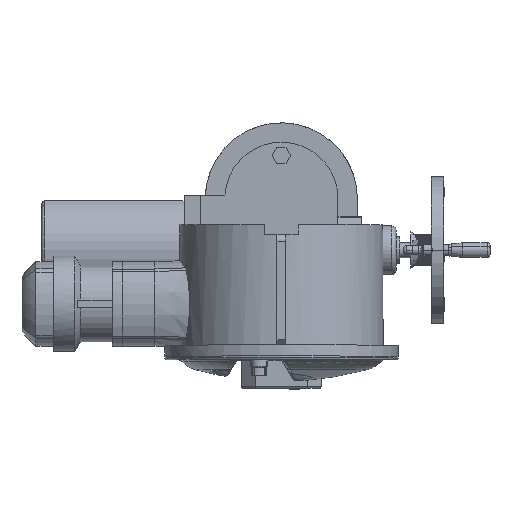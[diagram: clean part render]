
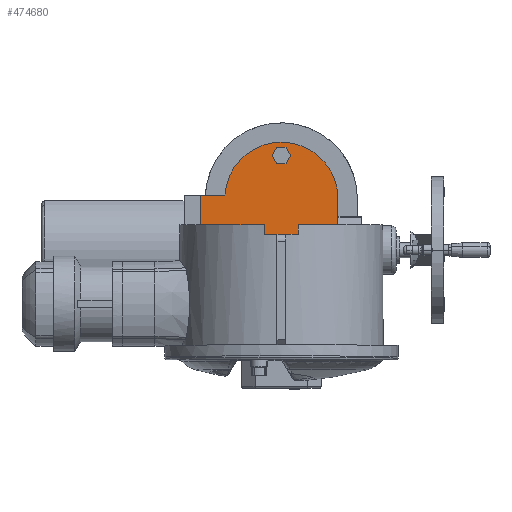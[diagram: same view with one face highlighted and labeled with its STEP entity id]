
A CAD part, top view. The second image highlights one B-rep face of the part: STEP entity #474680.
In plain terms, the highlighted planar face has unit normal (0, 0, 1).
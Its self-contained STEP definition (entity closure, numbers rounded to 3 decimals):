
#459160=CARTESIAN_POINT('',(0.,36.,137.5));
#459170=DIRECTION('',(-1.,0.,0.));
#459180=VECTOR('',#459170,1.);
#459190=LINE('',#459160,#459180);
#459200=CARTESIAN_POINT('',(-76.837,36.,137.5));
#459210=VERTEX_POINT('',#459200);
#459220=CARTESIAN_POINT('',(-110.5,36.,137.5));
#459230=VERTEX_POINT('',#459220);
#459240=EDGE_CURVE('',#459210,#459230,#459190,.T.);
#460250=CARTESIAN_POINT('',(-110.5,-114.,137.5));
#460260=VERTEX_POINT('',#460250);
#460290=CARTESIAN_POINT('',(0.,-114.,137.5));
#460300=DIRECTION('',(-1.,0.,0.));
#460310=VECTOR('',#460300,1.);
#460320=LINE('',#460290,#460310);
#460330=CARTESIAN_POINT('',(-61.,-114.,137.5));
#460340=VERTEX_POINT('',#460330);
#460350=EDGE_CURVE('',#460340,#460260,#460320,.T.);
#460850=CARTESIAN_POINT('',(-110.5,-72.604,137.5));
#460860=DIRECTION('',(0.,1.,0.));
#460870=VECTOR('',#460860,1.);
#460880=LINE('',#460850,#460870);
#460890=EDGE_CURVE('',#460260,#459230,#460880,.T.);
#468230=CARTESIAN_POINT('',(12.702,89.813,137.5));
#468240=VERTEX_POINT('',#468230);
#468270=CARTESIAN_POINT('',(-81.07,-72.604,137.5));
#468280=DIRECTION('',(0.5,0.866,0.));
#468290=VECTOR('',#468280,1.);
#468300=LINE('',#468270,#468290);
#468310=CARTESIAN_POINT('',(6.351,78.813,137.5));
#468320=VERTEX_POINT('',#468310);
#468330=EDGE_CURVE('',#468320,#468240,#468300,.T.);
#468980=CARTESIAN_POINT('',(0.,78.813,137.5)
);
#468990=DIRECTION('',(1.,0.,0.));
#469000=VECTOR('',#468990,1.);
#469010=LINE('',#468980,#469000);
#469020=CARTESIAN_POINT('',(-6.351,78.813,137.5));
#469030=VERTEX_POINT('',#469020);
#469040=EDGE_CURVE('',#469030,#468320,#469010,.T.);
#469220=CARTESIAN_POINT('',(81.07,-72.604,137.5));
#469230=DIRECTION('',(0.5,-0.866,0.));
#469240=VECTOR('',#469230,1.);
#469250=LINE('',#469220,#469240);
#469260=CARTESIAN_POINT('',(-12.702,89.813,137.5));
#469270=VERTEX_POINT('',#469260);
#469280=EDGE_CURVE('',#469270,#469030,#469250,.T.);
#469460=CARTESIAN_POINT('',(-106.473,-72.604,137.5));
#469470=DIRECTION('',(-0.5,-0.866,0.));
#469480=VECTOR('',#469470,1.);
#469490=LINE('',#469460,#469480);
#469500=CARTESIAN_POINT('',(-6.351,100.813,137.5));
#469510=VERTEX_POINT('',#469500);
#469520=EDGE_CURVE('',#469510,#469270,#469490,.T.);
#469700=CARTESIAN_POINT('',(0.,100.813,137.5)
);
#469710=DIRECTION('',(-1.,0.,-0.));
#469720=VECTOR('',#469710,1.);
#469730=LINE('',#469700,#469720);
#469740=CARTESIAN_POINT('',(6.351,100.813,137.5));
#469750=VERTEX_POINT('',#469740);
#469760=EDGE_CURVE('',#469750,#469510,#469730,.T.);
#469940=CARTESIAN_POINT('',(106.473,-72.604,137.5));
#469950=DIRECTION('',(-0.5,0.866,-0.));
#469960=VECTOR('',#469950,1.);
#469970=LINE('',#469940,#469960);
#469980=EDGE_CURVE('',#468240,#469750,#469970,.T.);
#470340=CARTESIAN_POINT('',(0.,-140.,137.5
));
#470350=VERTEX_POINT('',#470340);
#470380=CARTESIAN_POINT('',(0.,-85.,137.5
));
#470390=DIRECTION('',(0.,0.,1.));
#470400=DIRECTION('',(0.,-1.,0.));
#470410=AXIS2_PLACEMENT_3D('',#470380,#470390,#470400);
#470420=CIRCLE('',#470410,55.);
#470430=CARTESIAN_POINT('',(0.,-30.,137.5
));
#470440=VERTEX_POINT('',#470430);
#470450=EDGE_CURVE('',#470440,#470350,#470420,.T.);
#470640=EDGE_CURVE('',#470350,#470440,#470420,.T.);
#471290=CARTESIAN_POINT('',(77.,31.,137.5));
#471300=VERTEX_POINT('',#471290);
#471330=CARTESIAN_POINT('',(0.,31.,137.5));
#471340=DIRECTION('',(0.,0.,-1.));
#471350=DIRECTION('',(1.,0.,0.));
#471360=AXIS2_PLACEMENT_3D('',#471330,#471340,#471350);
#471370=CIRCLE('',#471360,77.);
#471380=EDGE_CURVE('',#459210,#471300,#471370,.T.);
#472490=CARTESIAN_POINT('',(77.,-74.,137.5));
#472500=VERTEX_POINT('',#472490);
#472530=CARTESIAN_POINT('',(77.,31.,137.5));
#472540=DIRECTION('',(0.,-1.,0.));
#472550=VECTOR('',#472540,1.);
#472560=LINE('',#472530,#472550);
#472570=EDGE_CURVE('',#471300,#472500,#472560,.T.);
#472800=CARTESIAN_POINT('',(61.,-74.,137.5));
#472810=VERTEX_POINT('',#472800);
#472840=CARTESIAN_POINT('',(0.,-74.,137.5));
#472850=DIRECTION('',(1.,0.,0.));
#472860=VECTOR('',#472850,1.);
#472870=LINE('',#472840,#472860);
#472880=EDGE_CURVE('',#472810,#472500,#472870,.T.);
#474110=CARTESIAN_POINT('',(-61.,-72.604,137.5));
#474120=DIRECTION('',(0.,-1.,0.));
#474130=VECTOR('',#474120,1.);
#474140=LINE('',#474110,#474130);
#474150=CARTESIAN_POINT('',(-61.,-147.,137.5));
#474160=VERTEX_POINT('',#474150);
#474170=EDGE_CURVE('',#460340,#474160,#474140,.T.);
#474280=CARTESIAN_POINT('',(-57.803,-113.91,137.5));
#474290=DIRECTION('',(0.,0.,1.));
#474300=DIRECTION('',(1.,0.,0.));
#474310=AXIS2_PLACEMENT_3D('',#474280,#474290,#474300);
#474320=PLANE('',#474310);
#474330=ORIENTED_EDGE('',*,*,#468330,.F.);
#474340=ORIENTED_EDGE('',*,*,#469980,.F.);
#474350=ORIENTED_EDGE('',*,*,#469760,.F.);
#474360=ORIENTED_EDGE('',*,*,#469520,.F.);
#474370=ORIENTED_EDGE('',*,*,#469280,.F.);
#474380=ORIENTED_EDGE('',*,*,#469040,.F.);
#474390=EDGE_LOOP('',(#474380,#474370,#474360,#474350,#474340,#474330));
#474400=FACE_BOUND('',#474390,.T.);
#474410=ORIENTED_EDGE('',*,*,#470640,.F.);
#474420=ORIENTED_EDGE('',*,*,#470450,.F.);
#474430=EDGE_LOOP('',(#474420,#474410));
#474440=FACE_BOUND('',#474430,.T.);
#474450=ORIENTED_EDGE('',*,*,#460350,.F.);
#474460=ORIENTED_EDGE('',*,*,#460890,.F.);
#474470=ORIENTED_EDGE('',*,*,#459240,.T.);
#474480=ORIENTED_EDGE('',*,*,#471380,.F.);
#474490=ORIENTED_EDGE('',*,*,#472570,.F.);
#474500=ORIENTED_EDGE('',*,*,#472880,.T.);
#474510=CARTESIAN_POINT('',(61.,68.728,137.5));
#474520=DIRECTION('',(0.,1.,0.));
#474530=VECTOR('',#474520,1.);
#474540=LINE('',#474510,#474530);
#474550=CARTESIAN_POINT('',(61.,-147.,137.5));
#474560=VERTEX_POINT('',#474550);
#474570=EDGE_CURVE('',#474560,#472810,#474540,.T.);
#474580=ORIENTED_EDGE('',*,*,#474570,.T.);
#474590=CARTESIAN_POINT('',(0.,-147.,137.5));
#474600=DIRECTION('',(1.,0.,0.));
#474610=VECTOR('',#474600,1.);
#474620=LINE('',#474590,#474610);
#474630=EDGE_CURVE('',#474160,#474560,#474620,.T.);
#474640=ORIENTED_EDGE('',*,*,#474630,.T.);
#474650=ORIENTED_EDGE('',*,*,#474170,.T.);
#474660=EDGE_LOOP('',(#474650,#474640,#474580,#474500,#474490,#474480,
#474470,#474460,#474450));
#474670=FACE_OUTER_BOUND('',#474660,.T.);
#474680=ADVANCED_FACE('',(#474400,#474440,#474670),#474320,.T.);
